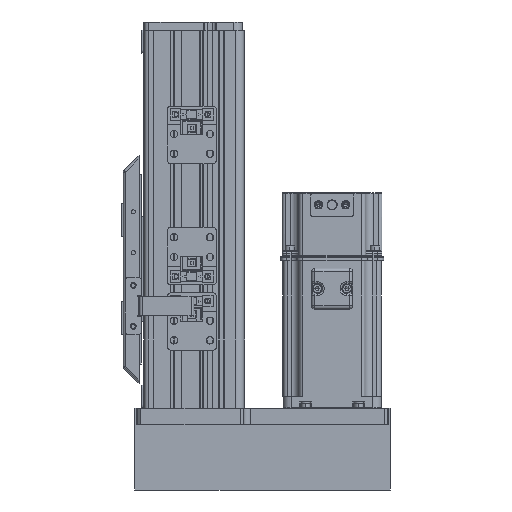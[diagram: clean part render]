
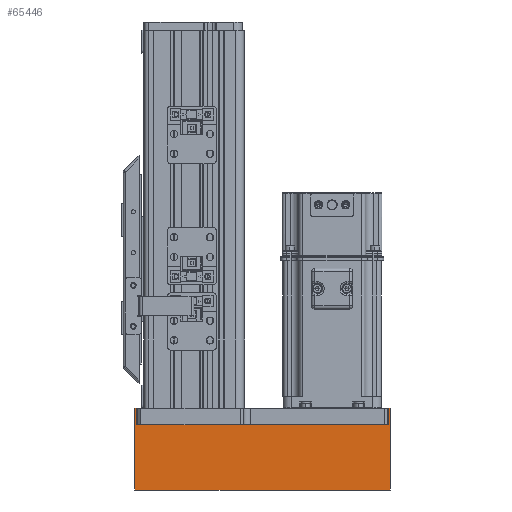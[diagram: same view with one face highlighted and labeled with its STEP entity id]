
A CAD part, left-side view. The second image highlights one B-rep face of the part: STEP entity #65446.
In plain terms, the highlighted planar face has unit normal (-1, 0, 0).
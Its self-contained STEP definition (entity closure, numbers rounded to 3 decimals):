
#129 = CARTESIAN_POINT ( 'NONE',  ( -35., 50., -82. ) ) ;
#596 = VERTEX_POINT ( 'NONE', #65131 ) ;
#1315 = CARTESIAN_POINT ( 'NONE',  ( -35., 50., 72.8 ) ) ;
#4376 = VECTOR ( 'NONE', #53006, 1000. ) ;
#5621 = CARTESIAN_POINT ( 'NONE',  ( -35., 40., -82. ) ) ;
#6069 = LINE ( 'NONE', #5621, #4376 ) ;
#6176 = LINE ( 'NONE', #23581, #6969 ) ;
#6518 = CARTESIAN_POINT ( 'NONE',  ( -35., 0., -82. ) ) ;
#6745 = CARTESIAN_POINT ( 'NONE',  ( -35., 50., 74. ) ) ;
#6969 = VECTOR ( 'NONE', #44103, 1000. ) ;
#7524 = DIRECTION ( 'NONE',  ( 0., 0., 1. ) ) ;
#7718 = VERTEX_POINT ( 'NONE', #45177 ) ;
#8707 = ORIENTED_EDGE ( 'NONE', *, *, #18839, .F. ) ;
#9274 = EDGE_CURVE ( 'NONE', #26313, #64062, #41302, .T. ) ;
#10585 = LINE ( 'NONE', #27771, #22066 ) ;
#13017 = CARTESIAN_POINT ( 'NONE',  ( -35., 50., -82. ) ) ;
#13220 = CARTESIAN_POINT ( 'NONE',  ( -35., 50., -90. ) ) ;
#15147 = DIRECTION ( 'NONE',  ( 0., -1., 0. ) ) ;
#18839 = EDGE_CURVE ( 'NONE', #596, #26313, #6176, .T. ) ;
#18926 = VECTOR ( 'NONE', #59464, 1000. ) ;
#19475 = CARTESIAN_POINT ( 'NONE',  ( -35., 40., -80.8 ) ) ;
#19978 = EDGE_LOOP ( 'NONE', ( #26708, #41827, #42015, #37308, #45967, #29764, #8707, #20055 ) ) ;
#19980 = VECTOR ( 'NONE', #15147, 1000. ) ;
#20055 = ORIENTED_EDGE ( 'NONE', *, *, #26910, .F. ) ;
#22066 = VECTOR ( 'NONE', #22476, 1000. ) ;
#22476 = DIRECTION ( 'NONE',  ( 0., 0., 1. ) ) ;
#23005 = LINE ( 'NONE', #13017, #18926 ) ;
#23581 = CARTESIAN_POINT ( 'NONE',  ( -35., 50., 72.8 ) ) ;
#26195 = AXIS2_PLACEMENT_3D ( 'NONE', #129, #63422, #48241 ) ;
#26313 = VERTEX_POINT ( 'NONE', #1315 ) ;
#26669 = VERTEX_POINT ( 'NONE', #61369 ) ;
#26708 = ORIENTED_EDGE ( 'NONE', *, *, #39759, .F. ) ;
#26910 = EDGE_CURVE ( 'NONE', #55552, #596, #6069, .T. ) ;
#27291 = VECTOR ( 'NONE', #49990, 1000. ) ;
#27771 = CARTESIAN_POINT ( 'NONE',  ( -35., 50., 0. ) ) ;
#28576 = VECTOR ( 'NONE', #7524, 1000. ) ;
#28840 = FACE_OUTER_BOUND ( 'NONE', #19978, .T. ) ;
#29200 = EDGE_CURVE ( 'NONE', #40314, #7718, #23005, .T. ) ;
#29647 = CARTESIAN_POINT ( 'NONE',  ( -35., 50., -80.8 ) ) ;
#29764 = ORIENTED_EDGE ( 'NONE', *, *, #9274, .F. ) ;
#31431 = CARTESIAN_POINT ( 'NONE',  ( -35., 50., 74. ) ) ;
#37308 = ORIENTED_EDGE ( 'NONE', *, *, #49722, .T. ) ;
#38550 = VECTOR ( 'NONE', #38723, 1000. ) ;
#38723 = DIRECTION ( 'NONE',  ( 0., 1., 0. ) ) ;
#39759 = EDGE_CURVE ( 'NONE', #26669, #55552, #62852, .T. ) ;
#40314 = VERTEX_POINT ( 'NONE', #6518 ) ;
#41302 = LINE ( 'NONE', #13220, #27291 ) ;
#41827 = ORIENTED_EDGE ( 'NONE', *, *, #60520, .F. ) ;
#42015 = ORIENTED_EDGE ( 'NONE', *, *, #29200, .F. ) ;
#42607 = LINE ( 'NONE', #66209, #28576 ) ;
#43284 = VERTEX_POINT ( 'NONE', #63356 ) ;
#43381 = EDGE_CURVE ( 'NONE', #43284, #64062, #49238, .T. ) ;
#44103 = DIRECTION ( 'NONE',  ( 0., 1., 0. ) ) ;
#45177 = CARTESIAN_POINT ( 'NONE',  ( -35., 50., -82. ) ) ;
#45967 = ORIENTED_EDGE ( 'NONE', *, *, #43381, .T. ) ;
#48241 = DIRECTION ( 'NONE',  ( 0., 0., -1. ) ) ;
#49238 = LINE ( 'NONE', #6745, #38550 ) ;
#49722 = EDGE_CURVE ( 'NONE', #40314, #43284, #42607, .T. ) ;
#49990 = DIRECTION ( 'NONE',  ( 0., 0., 1. ) ) ;
#53006 = DIRECTION ( 'NONE',  ( 0., 0., 1. ) ) ;
#55552 = VERTEX_POINT ( 'NONE', #19475 ) ;
#58328 = PLANE ( 'NONE',  #26195 ) ;
#59464 = DIRECTION ( 'NONE',  ( 0., 1., 0. ) ) ;
#60520 = EDGE_CURVE ( 'NONE', #7718, #26669, #10585, .T. ) ;
#61369 = CARTESIAN_POINT ( 'NONE',  ( -35., 50., -80.8 ) ) ;
#62852 = LINE ( 'NONE', #29647, #19980 ) ;
#63356 = CARTESIAN_POINT ( 'NONE',  ( -35., 0., 74. ) ) ;
#63422 = DIRECTION ( 'NONE',  ( 1., 0., 0. ) ) ;
#64062 = VERTEX_POINT ( 'NONE', #31431 ) ;
#65131 = CARTESIAN_POINT ( 'NONE',  ( -35., 40., 72.8 ) ) ;
#65446 = ADVANCED_FACE ( 'NONE', ( #28840 ), #58328, .F. ) ;
#66209 = CARTESIAN_POINT ( 'NONE',  ( -35., 0., 0. ) ) ;
